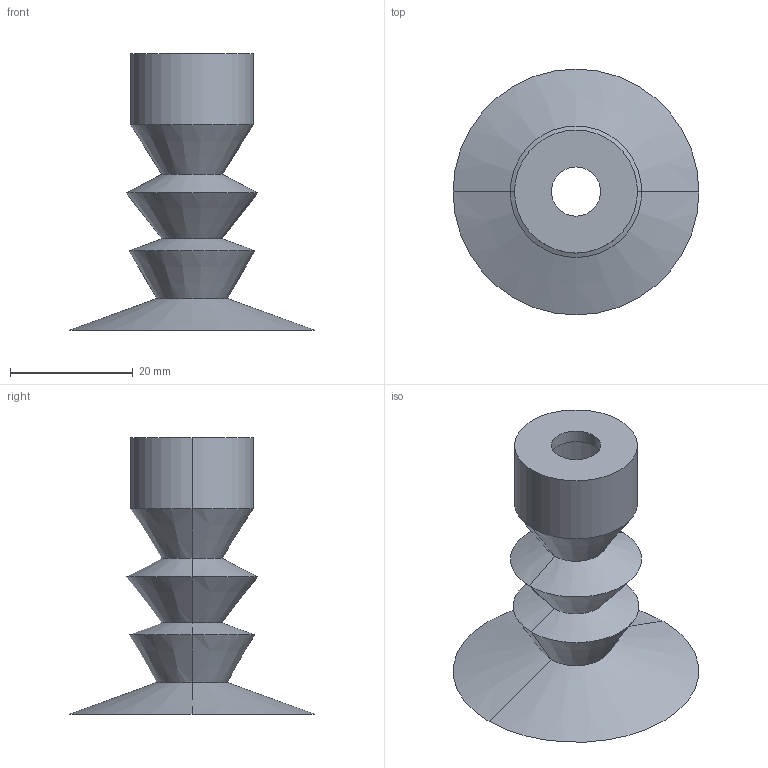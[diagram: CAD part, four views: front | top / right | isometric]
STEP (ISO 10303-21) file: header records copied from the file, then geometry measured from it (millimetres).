
FILE_DESCRIPTION (( 'STEP AP214' ), '1' );
FILE_NAME ('VSH3-M40.STEP', '2019-12-02T08:50:31', ( '微软用户' ), ( '微软中国' ), 'SwSTEP 2.0', 'SolidWorks 2016', '' );
FILE_SCHEMA (( 'AUTOMOTIVE_DESIGN' ));
Length unit declared in the file: millimetre
Products named in the file (1): VSH3-M40
Bounding box: 40 x 40 x 45 mm (x, y, z)
Volume: 1833.7 mm3; surface area: 8105.6 mm2
Topology: 1 solids, 1 shells, 36 faces, 72 edges, 40 vertices
Faces by surface type: cone 24, cylinder 8, plane 4
Entity records: 962 total; most frequent: DIRECTION 186, CARTESIAN_POINT 149, ORIENTED_EDGE 144, AXIS2_PLACEMENT_3D 77, EDGE_CURVE 72, VERTEX_POINT 40, CIRCLE 40, EDGE_LOOP 40
